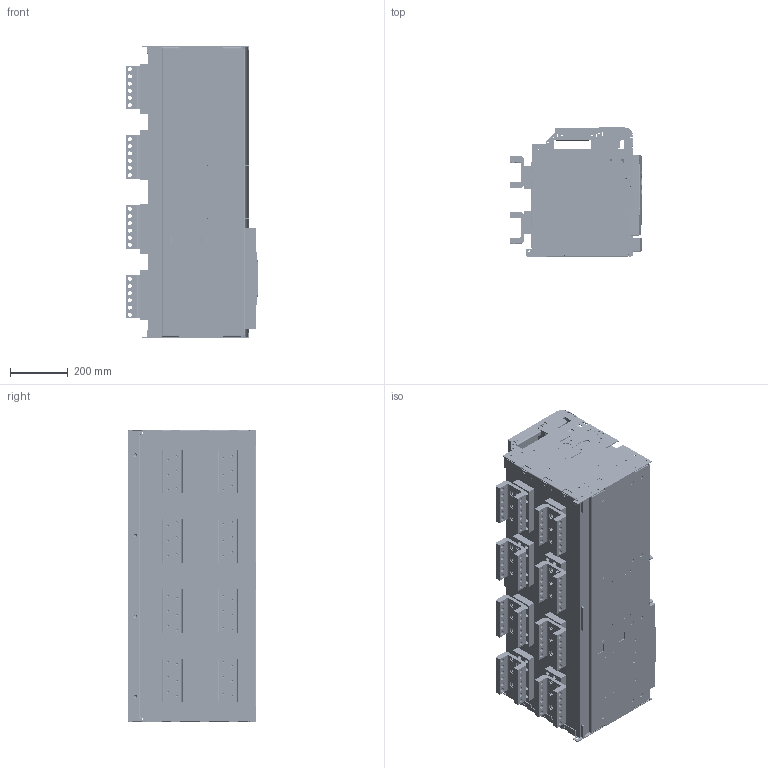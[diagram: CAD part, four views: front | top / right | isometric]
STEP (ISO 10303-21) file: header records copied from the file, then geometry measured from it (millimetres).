
FILE_DESCRIPTION (( 'STEP AP214' ), '1' );
FILE_NAME ('OptiMat A-S6-B-6300-4P-D-H .STEP', '2025-02-10T10:17:52', ( '' ), ( '' ), 'SwSTEP 2.0', 'SolidWorks 2018', '' );
FILE_SCHEMA (( 'AUTOMOTIVE_DESIGN' ));
Length unit declared in the file: millimetre
Products named in the file (1): OptiMat A-S6-B-6300-4P-D-H 
Bounding box: 462.5 x 447.5 x 1016 mm (x, y, z)
Volume: 129833996.7 mm3; surface area: 4687692.6 mm2
Topology: 9 solids, 78 shells, 6266 faces, 16174 edges, 10404 vertices
Faces by surface type: plane 2935, cylinder 2585, cone 377, bspline 189, torus 140, sphere 40
Entity records: 272903 total; most frequent: CARTESIAN_POINT 53077, DIRECTION 32843, ORIENTED_EDGE 32088, EDGE_CURVE 16044, AXIS2_PLACEMENT_3D 11669, VERTEX_POINT 10398, LINE 9505, VECTOR 9505
